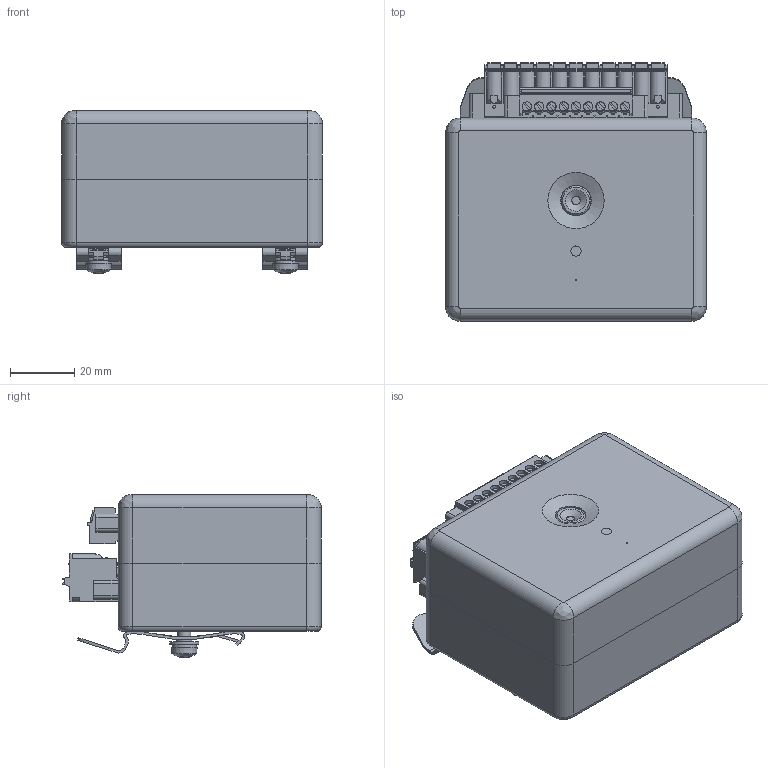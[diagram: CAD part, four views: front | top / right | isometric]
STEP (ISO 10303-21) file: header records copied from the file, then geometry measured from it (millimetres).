
FILE_DESCRIPTION(/* description */ ('Тепловизионное реле защиты КАКТУС'),/* implementation_level */ '2;1');
FILE_NAME(/* name */ 'D:\WorkIMT\Project IMT\iVisor\!!!!! КАКТУС\!!! v5\МТ.КАКТУС.02.stp',/* time_stamp */ '2020-10-23T17:13:47+03:00',/* author */ ('Иван'),/* organization */ (''),/* preprocessor_version */ 'ST-DEVELOPER v17.2',/* originating_system */ 'Autodesk Inventor 2019',/* authorisation */ '');
FILE_SCHEMA (('AUTOMOTIVE_DESIGN { 1 0 10303 214 3 1 1 }'));
Products named in the file (169): МТ.КАКТУС.04.
СБ; МТ.KAKTUS.ПлатаP
WR.02.ЭС; МТ.KAKTUS.ПлатаM
CU.02.ЭС; uid__4017012; Submodel-MF-NSMF012-2_368614506_part_RESC3216X60N_1206; Submodel-noModelForPart_MF-NSMF012-2_368614506; placementOutline; placementOutline_1; Submodel-MF-NSMF050-2_2595234114_part_RESC3216X60N_1206; Submodel-noModelForPart_MF-NSMF050-2_2595234114; placementOutline_2; placementOutline_3; Submodel-BCP56-16T3G_718241196_part_SOT230P700X180-4N_BCP56-16T3G; Submodel-noModelForPart_BCP56-16T3G_718241196; placementOutline_4; placementOutline_5; Submodel-RC0805FR-07120RL_2269692622_part_RESC2013X70N_0805; Submodel-noModelForPart_RC0805FR-07120RL_2269692622; placementOutline_12; placementOutline_13; Submodel-RC0805FR-07120RL_2436392172_part_RESC2013X70N_0805; Submodel-noModelForPart_RC0805FR-07120RL_2436392172; placementOutline_20; placementOutline_21; Submodel-RC0805FR-0727RL_2436392172_part_RESC2013X70N_0805; Submodel-noModelForPart_RC0805FR-0727RL_2436392172; placementOutline_22; placementOutline_23; Submodel-RC0805FR-0710KL_4044293458_part_RESC2013X70N_0805; Submodel-noModelForPart_RC0805FR-0710KL_4044293458; placementOutline_6; placementOutline_7; Submodel-CC0805KKX5R7BB106_3772726879_part_CAPC2013X140N_0805; Submodel-noModelForPart_CC0805KKX5R7BB106_3772726879; placementOutline_28; placementOutline_29; Submodel-RC0805FR-0710KL_2436392172_part_RESC2013X70N_0805; Submodel-noModelForPart_RC0805FR-0710KL_2436392172; placementOutline_10; placementOutline_11 ...
Assembly tree (210 placements, depth 5):
  МТ.КАКТУС.04.
СБ
    МТ.KAKTUS.ПлатаP
WR.02.ЭС
    МТ.KAKTUS.ПлатаM
CU.02.ЭС
      uid__4017012
      Submodel-MF-NSMF012-2_368614506_part_RESC3216X60N_1206
        Submodel-noModelForPart_MF-NSMF012-2_368614506
          placementOutline
          placementOutline_1
      Submodel-MF-NSMF050-2_2595234114_part_RESC3216X60N_1206
        Submodel-noModelForPart_MF-NSMF050-2_2595234114
          placementOutline_2
          placementOutline_3
      Submodel-BCP56-16T3G_718241196_part_SOT230P700X180-4N_BCP56-16T3G
        Submodel-noModelForPart_BCP56-16T3G_718241196
          placementOutline_4
          placementOutline_5
      Submodel-RC0805FR-0710KL_4044293458_part_RESC2013X70N_0805  x5
        Submodel-noModelForPart_RC0805FR-0710KL_4044293458
          placementOutline_6
          placementOutline_7
      Submodel-RC0805FR-071K8L_2269692622_part_RESC2013X70N_0805  x2
        Submodel-noModelForPart_RC0805FR-071K8L_2269692622
          placementOutline_8
          placementOutline_9
      Submodel-RC0805FR-0710KL_2436392172_part_RESC2013X70N_0805  x8
        Submodel-noModelForPart_RC0805FR-0710KL_2436392172
          placementOutline_10
          placementOutline_11
      Submodel-RC0805FR-07120RL_2269692622_part_RESC2013X70N_0805
        Submodel-noModelForPart_RC0805FR-07120RL_2269692622
          placementOutline_12
          placementOutline_13
      Submodel-RC0805FR-0710KL_2269692622_part_RESC2013X70N_0805  x3
        Submodel-noModelForPart_RC0805FR-0710KL_2269692622
          placementOutline_14
          placementOutline_15
      Submodel-CC0805KRX7R9BB104_845846635_part_CAPC2013X140N_0805  x6
        Submodel-noModelForPart_CC0805KRX7R9BB104_845846635
          placementOutline_16
          placementOutline_17
      Submodel-RC0805FR-0710KL_2263604896_part_RESC2013X70N_0805  x3
        Submodel-noModelForPart_RC0805FR-0710KL_2263604896
          placementOutline_18
          placementOutline_19
      Submodel-RC0805FR-07120RL_2436392172_part_RESC2013X70N_0805
        Submodel-noModelForPart_RC0805FR-07120RL_2436392172
          placementOutline_20
          placementOutline_21
      Submodel-RC0805FR-0727RL_2436392172_part_RESC2013X70N_0805
        Submodel-noModelForPart_RC0805FR-0727RL_2436392172
          placementOutline_22
          placementOutline_23
      Submodel-CC0805KRX7R9BB104_583294025_part_CAPC2013X140N_0805  x3
        Submodel-noModelForPart_CC0805KRX7R9BB104_583294025
          placementOutline_24
          placementOutline_25
      Submodel-CC0805KKX5R7BB106_2490648837_part_CAPC2013X140N_0805  x3
        Submodel-noModelForPart_CC0805KKX5R7BB106_2490648837
          placementOutline_26
          placementOutline_27
Bounding box: 81 x 80.2 x 50.46 mm (x, y, z)
Volume: 117929.7 mm3; surface area: 108671.8 mm2
Topology: 282 solids, 284 shells, 5616 faces, 13205 edges, 8481 vertices
Faces by surface type: plane 4475, cylinder 817, cone 154, torus 81, sphere 48, bspline 41
Full cylindrical faces by diameter (mm): 0.434 x1, 0.457 x3, 0.5 x1, 0.8 x4, 1 x11, 1.12 x4, 1.2 x10, 1.25 x9, 1.4 x13, 1.5 x8, 1.6 x16, 1.75 x4, 1.8 x2, 2 x2, 2.013 x4, 2.146 x2, 2.4 x4, 2.5 x23, 2.6 x1, 2.8 x31, 2.9 x9, 3 x2, 3.2 x2, 3.242 x2, 3.65 x2, 3.8 x4, 3.9 x4, 4 x15, 4.3 x2, 4.7 x2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
Entity records: 161459 total; most frequent: CARTESIAN_POINT 34068, DIRECTION 25019, ORIENTED_EDGE 23844, EDGE_CURVE 11922, LINE 9039, VECTOR 9039, AXIS2_PLACEMENT_3D 7990, VERTEX_POINT 7642
